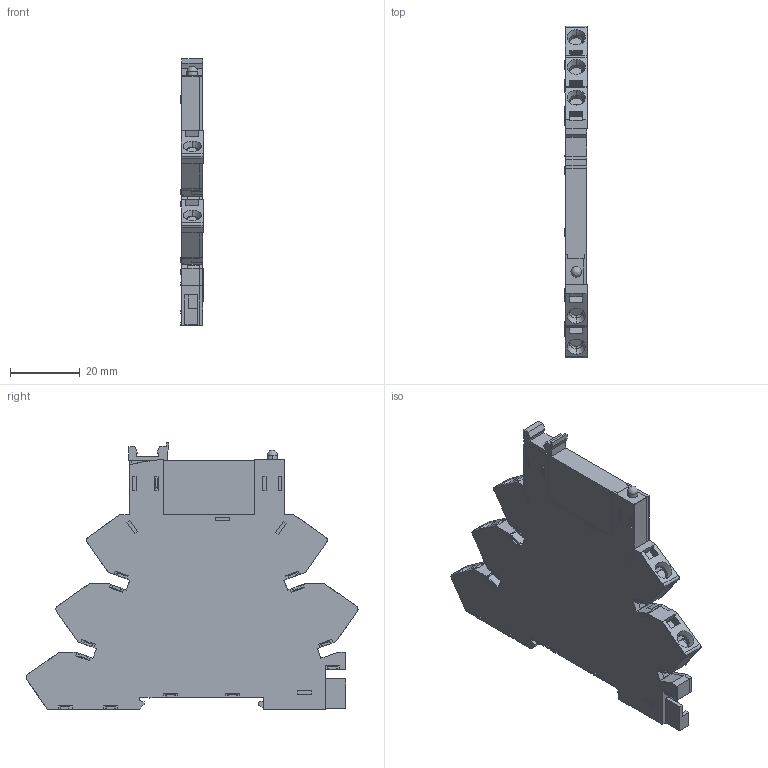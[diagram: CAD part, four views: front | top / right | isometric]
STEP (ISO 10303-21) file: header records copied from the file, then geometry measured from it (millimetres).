
FILE_DESCRIPTION (( 'STEP AP214' ), '1' );
FILE_NAME ('CRINT-S12.STEP', '2014-12-02T15:00:21', ( '' ), ( '' ), 'SwSTEP 2.0', 'SolidWorks 2014', '' );
FILE_SCHEMA (( 'AUTOMOTIVE_DESIGN' ));
Length unit declared in the file: millimetre
Products named in the file (1): CRINT-S12
Bounding box: 6.34 x 95.36 x 76.64 mm (x, y, z)
Volume: 28387.2 mm3; surface area: 12424.7 mm2
Topology: 1 solids, 1 shells, 686 faces, 1800 edges, 1137 vertices
Faces by surface type: plane 653, cylinder 21, cone 11, bspline 1
Entity records: 28053 total; most frequent: CARTESIAN_POINT 3684, ORIENTED_EDGE 3596, DIRECTION 3212, EDGE_CURVE 1798, VECTOR 1726, LINE 1726, VERTEX_POINT 1137, AXIS2_PLACEMENT_3D 743
